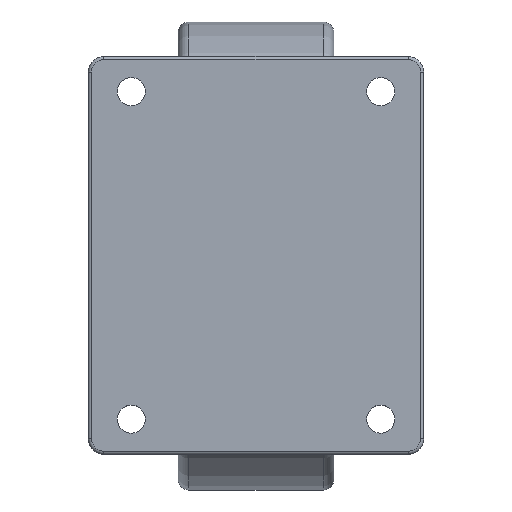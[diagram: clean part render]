
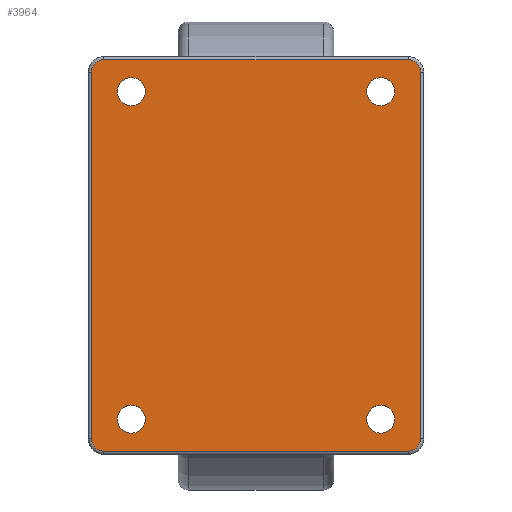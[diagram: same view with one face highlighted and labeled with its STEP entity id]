
A CAD part, top view. The second image highlights one B-rep face of the part: STEP entity #3964.
In plain terms, the highlighted planar face has unit normal (0, 0, 1).
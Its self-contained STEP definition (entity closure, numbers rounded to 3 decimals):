
#3046=CARTESIAN_POINT('',(441.628,-3.798,106.601));
#3047=VERTEX_POINT('',#3046);
#3048=CARTESIAN_POINT('',(441.628,5.202,106.601));
#3049=DIRECTION('',(0.0,0.0,1.0));
#3050=DIRECTION('',(0.0,1.0,0.0));
#3051=AXIS2_PLACEMENT_3D('',#3048,#3049,#3050);
#3052=CIRCLE('',#3051,9.0);
#3053=EDGE_CURVE('',#3047,#3047,#3052,.T.);
#3074=CARTESIAN_POINT('',(601.628,-3.798,106.601));
#3075=VERTEX_POINT('',#3074);
#3076=CARTESIAN_POINT('',(601.628,5.202,106.601));
#3077=DIRECTION('',(0.0,0.0,1.0));
#3078=DIRECTION('',(0.0,1.0,0.0));
#3079=AXIS2_PLACEMENT_3D('',#3076,#3077,#3078);
#3080=CIRCLE('',#3079,9.0);
#3081=EDGE_CURVE('',#3075,#3075,#3080,.T.);
#3102=CARTESIAN_POINT('',(441.628,-213.798,106.601));
#3103=VERTEX_POINT('',#3102);
#3104=CARTESIAN_POINT('',(441.628,-204.798,106.601));
#3105=DIRECTION('',(0.0,0.0,1.0));
#3106=DIRECTION('',(0.0,1.0,0.0));
#3107=AXIS2_PLACEMENT_3D('',#3104,#3105,#3106);
#3108=CIRCLE('',#3107,9.0);
#3109=EDGE_CURVE('',#3103,#3103,#3108,.T.);
#3130=CARTESIAN_POINT('',(601.628,-213.798,106.601));
#3131=VERTEX_POINT('',#3130);
#3132=CARTESIAN_POINT('',(601.628,-204.798,106.601));
#3133=DIRECTION('',(0.0,0.0,1.0));
#3134=DIRECTION('',(0.0,1.0,0.0));
#3135=AXIS2_PLACEMENT_3D('',#3132,#3133,#3134);
#3136=CIRCLE('',#3135,9.0);
#3137=EDGE_CURVE('',#3131,#3131,#3136,.T.);
#3575=CARTESIAN_POINT('',(416.128,-217.298,106.601));
#3576=VERTEX_POINT('',#3575);
#3584=CARTESIAN_POINT('',(416.128,17.702,106.601));
#3585=VERTEX_POINT('',#3584);
#3586=CARTESIAN_POINT('',(416.128,-217.298,106.601));
#3587=DIRECTION('',(0.0,1.0,0.0));
#3588=VECTOR('',#3587,235.0);
#3589=LINE('',#3586,#3588);
#3590=EDGE_CURVE('',#3576,#3585,#3589,.T.);
#3617=CARTESIAN_POINT('',(424.128,-225.298,106.601));
#3618=VERTEX_POINT('',#3617);
#3626=CARTESIAN_POINT('',(424.128,-217.298,106.601));
#3627=DIRECTION('',(0.0,0.0,-1.0));
#3628=DIRECTION('',(-0.707,-0.707,0.0));
#3629=AXIS2_PLACEMENT_3D('',#3626,#3627,#3628);
#3630=CIRCLE('',#3629,8.);
#3631=EDGE_CURVE('',#3618,#3576,#3630,.T.);
#3649=CARTESIAN_POINT('',(424.128,25.702,106.601));
#3650=VERTEX_POINT('',#3649);
#3668=CARTESIAN_POINT('',(424.128,17.702,106.601));
#3669=DIRECTION('',(0.0,0.0,-1.0));
#3670=DIRECTION('',(-0.707,0.707,0.0));
#3671=AXIS2_PLACEMENT_3D('',#3668,#3669,#3670);
#3672=CIRCLE('',#3671,8.);
#3673=EDGE_CURVE('',#3585,#3650,#3672,.T.);
#3685=CARTESIAN_POINT('',(619.128,-225.298,106.601));
#3686=VERTEX_POINT('',#3685);
#3694=CARTESIAN_POINT('',(619.128,-225.298,106.601));
#3695=DIRECTION('',(-1.0,0.0,0.0));
#3696=VECTOR('',#3695,195.0);
#3697=LINE('',#3694,#3696);
#3698=EDGE_CURVE('',#3686,#3618,#3697,.T.);
#3715=CARTESIAN_POINT('',(619.128,25.702,106.601));
#3716=VERTEX_POINT('',#3715);
#3733=CARTESIAN_POINT('',(424.128,25.702,106.601));
#3734=DIRECTION('',(1.0,0.0,0.0));
#3735=VECTOR('',#3734,195.);
#3736=LINE('',#3733,#3735);
#3737=EDGE_CURVE('',#3650,#3716,#3736,.T.);
#3749=CARTESIAN_POINT('',(627.128,-217.298,106.601));
#3750=VERTEX_POINT('',#3749);
#3758=CARTESIAN_POINT('',(619.128,-217.298,106.601));
#3759=DIRECTION('',(0.0,0.0,-1.0));
#3760=DIRECTION('',(0.707,-0.707,0.0));
#3761=AXIS2_PLACEMENT_3D('',#3758,#3759,#3760);
#3762=CIRCLE('',#3761,8.);
#3763=EDGE_CURVE('',#3750,#3686,#3762,.T.);
#3781=CARTESIAN_POINT('',(627.128,17.702,106.601));
#3782=VERTEX_POINT('',#3781);
#3800=CARTESIAN_POINT('',(619.128,17.702,106.601));
#3801=DIRECTION('',(0.0,0.0,-1.0));
#3802=DIRECTION('',(0.707,0.707,0.0));
#3803=AXIS2_PLACEMENT_3D('',#3800,#3801,#3802);
#3804=CIRCLE('',#3803,8.);
#3805=EDGE_CURVE('',#3716,#3782,#3804,.T.);
#3823=CARTESIAN_POINT('',(627.128,17.702,106.601));
#3824=DIRECTION('',(0.0,-1.0,0.0));
#3825=VECTOR('',#3824,235.0);
#3826=LINE('',#3823,#3825);
#3827=EDGE_CURVE('',#3782,#3750,#3826,.T.);
#3937=CARTESIAN_POINT('',(521.628,-99.798,106.601));
#3938=DIRECTION('',(0.0,0.0,1.0));
#3939=DIRECTION('',(0.0,1.0,0.0));
#3940=AXIS2_PLACEMENT_3D('',#3937,#3938,#3939);
#3941=PLANE('',#3940);
#3942=ORIENTED_EDGE('',*,*,#3590,.F.);
#3943=ORIENTED_EDGE('',*,*,#3631,.F.);
#3944=ORIENTED_EDGE('',*,*,#3698,.F.);
#3945=ORIENTED_EDGE('',*,*,#3763,.F.);
#3946=ORIENTED_EDGE('',*,*,#3827,.F.);
#3947=ORIENTED_EDGE('',*,*,#3805,.F.);
#3948=ORIENTED_EDGE('',*,*,#3737,.F.);
#3949=ORIENTED_EDGE('',*,*,#3673,.F.);
#3950=EDGE_LOOP('',(#3942,#3943,#3944,#3945,#3946,#3947,#3948,#3949));
#3951=FACE_OUTER_BOUND('',#3950,.T.);
#3952=ORIENTED_EDGE('',*,*,#3137,.F.);
#3953=EDGE_LOOP('',(#3952));
#3954=FACE_BOUND('',#3953,.T.);
#3955=ORIENTED_EDGE('',*,*,#3109,.F.);
#3956=EDGE_LOOP('',(#3955));
#3957=FACE_BOUND('',#3956,.T.);
#3958=ORIENTED_EDGE('',*,*,#3081,.F.);
#3959=EDGE_LOOP('',(#3958));
#3960=FACE_BOUND('',#3959,.T.);
#3961=ORIENTED_EDGE('',*,*,#3053,.F.);
#3962=EDGE_LOOP('',(#3961));
#3963=FACE_BOUND('',#3962,.T.);
#3964=ADVANCED_FACE('',(#3951,#3954,#3957,#3960,#3963),#3941,.T.);
